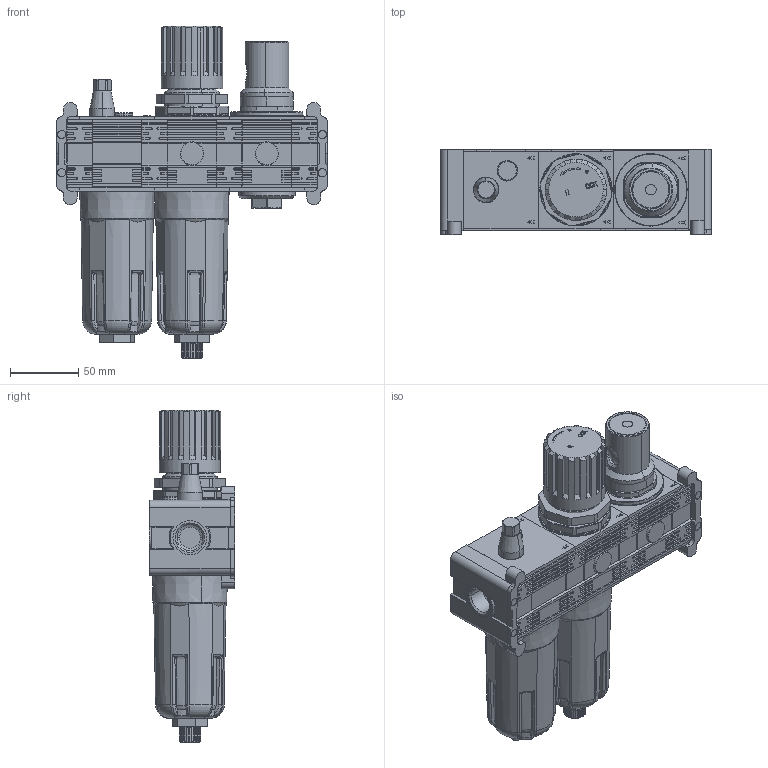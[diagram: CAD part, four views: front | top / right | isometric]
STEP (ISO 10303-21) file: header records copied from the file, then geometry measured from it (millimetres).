
FILE_DESCRIPTION (( 'STEP AP214' ), '1' );
FILE_NAME ('T110205231110A.step', '2012-10-18T18:33:48', ( '' ), ( '' ), 'SwSTEP 2.0', 'SolidWorks 2012', '' );
FILE_SCHEMA (( 'AUTOMOTIVE_DESIGN' ));
Products named in the file (1): T110205231110A
Bounding box: 199 x 63 x 243.86 mm (x, y, z)
Surface area: 284590.1 mm2 (no closed solid volume)
Topology: 0 solids, 27 shells, 4020 faces, 11329 edges, 7341 vertices
Faces by surface type: plane 2199, cylinder 1044, cone 502, bspline 145, torus 114, sphere 16
Entity records: 144772 total; most frequent: CARTESIAN_POINT 42028, ORIENTED_EDGE 22311, DIRECTION 20453, EDGE_CURVE 11300, VERTEX_POINT 7341, LINE 7291, VECTOR 7291, AXIS2_PLACEMENT_3D 6581
